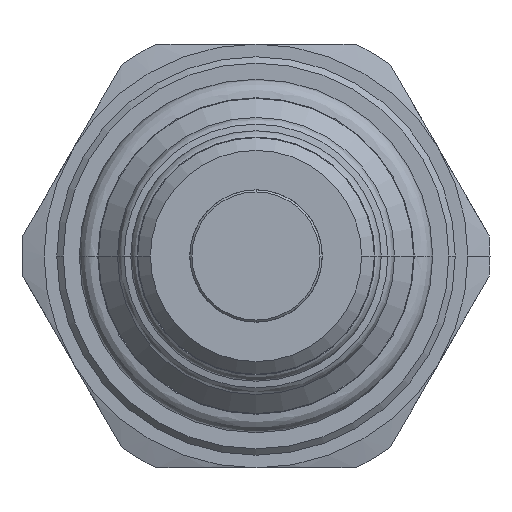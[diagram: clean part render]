
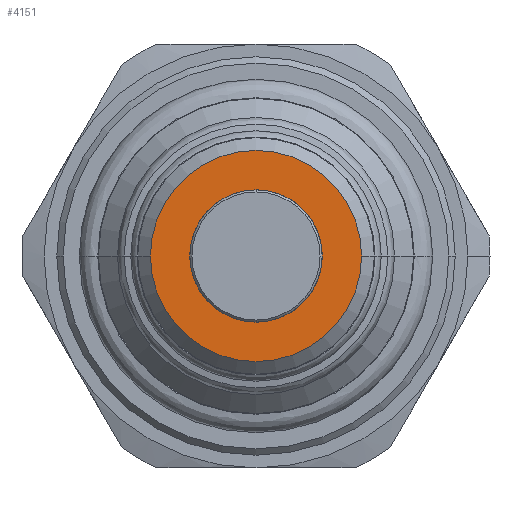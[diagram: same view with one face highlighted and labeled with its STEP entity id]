
A CAD part, front view. The second image highlights one B-rep face of the part: STEP entity #4151.
In plain terms, the highlighted planar face has unit normal (0, -1, 0).
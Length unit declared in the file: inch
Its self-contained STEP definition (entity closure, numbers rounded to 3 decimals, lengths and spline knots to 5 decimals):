
#1590=CARTESIAN_POINT('',(0.,-1.599,0.));
#1591=DIRECTION('',(0.,1.,0.));
#1592=DIRECTION('',(-1.,0.,0.));
#1593=AXIS2_PLACEMENT_3D('',#1590,#1591,#1592);
#1608=CARTESIAN_POINT('',(0.,-1.599,0.));
#1609=DIRECTION('',(0.,-1.,0.));
#1610=DIRECTION('',(-0.994,0.,0.109));
#1611=AXIS2_PLACEMENT_3D('',#1608,#1609,#1610);
#1613=DIRECTION('',(-0.866,0.,0.5));
#1614=VECTOR('',#1613,0.25179);
#1615=CARTESIAN_POINT('',(0.0629,-1.599,-0.14284));
#1616=LINE('',#1615,#1614);
#1617=CARTESIAN_POINT('',(0.,-1.599,0.));
#1618=DIRECTION('',(0.,-1.,0.));
#1619=DIRECTION('',(0.403,0.,-0.915));
#1620=AXIS2_PLACEMENT_3D('',#1617,#1618,#1619);
#1622=DIRECTION('',(0.,0.,-1.));
#1623=VECTOR('',#1622,0.25179);
#1624=CARTESIAN_POINT('',(0.09225,-1.599,0.12589));
#1625=LINE('',#1624,#1623);
#1626=CARTESIAN_POINT('',(0.,-1.599,0.));
#1627=DIRECTION('',(0.,-1.,0.));
#1628=DIRECTION('',(0.591,0.,0.807));
#1629=AXIS2_PLACEMENT_3D('',#1626,#1627,#1628);
#1631=DIRECTION('',(0.866,0.,0.5));
#1632=VECTOR('',#1631,0.25179);
#1633=CARTESIAN_POINT('',(-0.15515,-1.599,0.01694));
#1634=LINE('',#1633,#1632);
#1635=CARTESIAN_POINT('',(0.,-1.599,0.));
#1636=DIRECTION('',(0.,1.,0.));
#1637=DIRECTION('',(1.,0.,0.));
#1638=AXIS2_PLACEMENT_3D('',#1635,#1636,#1637);
#1831=CARTESIAN_POINT('',(0.249,-1.599,0.));
#1832=CARTESIAN_POINT('',(-0.249,-1.599,0.));
#1833=VERTEX_POINT('',#1831);
#1834=VERTEX_POINT('',#1832);
#1919=CARTESIAN_POINT('',(-0.15515,-1.599,0.01694));
#1920=CARTESIAN_POINT('',(-0.15515,-1.599,-0.01694));
#1921=VERTEX_POINT('',#1919);
#1922=VERTEX_POINT('',#1920);
#1923=CARTESIAN_POINT('',(0.0629,-1.599,-0.14284));
#1924=CARTESIAN_POINT('',(0.09225,-1.599,-0.12589));
#1925=VERTEX_POINT('',#1923);
#1926=VERTEX_POINT('',#1924);
#1927=CARTESIAN_POINT('',(0.09225,-1.599,0.12589));
#1928=CARTESIAN_POINT('',(0.0629,-1.599,0.14284));
#1929=VERTEX_POINT('',#1927);
#1930=VERTEX_POINT('',#1928);
#4127=CARTESIAN_POINT('',(0.,-1.599,0.));
#4128=DIRECTION('',(0.,-1.,0.));
#4129=DIRECTION('',(0.,0.,-1.));
#4130=AXIS2_PLACEMENT_3D('',#4127,#4128,#4129);
#4131=PLANE('',#4130);
#4133=ORIENTED_EDGE('',*,*,#4132,.T.);
#4134=ORIENTED_EDGE('',*,*,#4117,.T.);
#4135=EDGE_LOOP('',(#4133,#4134));
#4136=FACE_OUTER_BOUND('',#4135,.F.);
#4138=ORIENTED_EDGE('',*,*,#4137,.T.);
#4140=ORIENTED_EDGE('',*,*,#4139,.F.);
#4142=ORIENTED_EDGE('',*,*,#4141,.T.);
#4144=ORIENTED_EDGE('',*,*,#4143,.F.);
#4146=ORIENTED_EDGE('',*,*,#4145,.T.);
#4148=ORIENTED_EDGE('',*,*,#4147,.F.);
#4149=EDGE_LOOP('',(#4138,#4140,#4142,#4144,#4146,#4148));
#4150=FACE_BOUND('',#4149,.F.);
#4151=ADVANCED_FACE('',(#4136,#4150),#4131,.T.);
#1594=CIRCLE('',#1593,0.249);
#1612=CIRCLE('',#1611,0.15608);
#1621=CIRCLE('',#1620,0.15608);
#1630=CIRCLE('',#1629,0.15608);
#1639=CIRCLE('',#1638,0.249);
#4117=EDGE_CURVE('',#1834,#1833,#1594,.T.);
#4132=EDGE_CURVE('',#1833,#1834,#1639,.T.);
#4137=EDGE_CURVE('',#1921,#1922,#1612,.T.);
#4139=EDGE_CURVE('',#1925,#1922,#1616,.T.);
#4141=EDGE_CURVE('',#1925,#1926,#1621,.T.);
#4143=EDGE_CURVE('',#1929,#1926,#1625,.T.);
#4145=EDGE_CURVE('',#1929,#1930,#1630,.T.);
#4147=EDGE_CURVE('',#1921,#1930,#1634,.T.);
